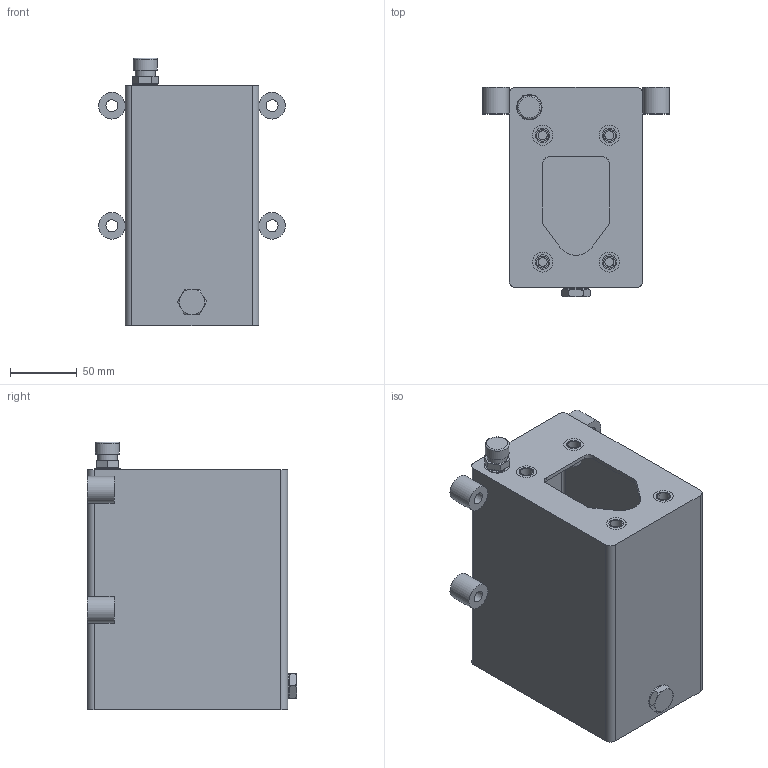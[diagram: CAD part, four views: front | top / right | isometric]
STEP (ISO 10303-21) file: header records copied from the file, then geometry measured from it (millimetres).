
FILE_DESCRIPTION(/* description */ ('Unknown'),/* implementation_level */ '2;1');
FILE_NAME(/* name */ 'PM00220002',/* time_stamp */ '2019-01-07T15:45:11+01:00',/* author */ ('Unknown'),/* organization */ ('Unknown'),/* preprocessor_version */ 'ST-DEVELOPER v16.7',/* originating_system */ 'DEX',/* authorisation */ $);
FILE_SCHEMA (('AUTOMOTIVE_DESIGN {1 0 10303 214 3 1 1}'));
Length unit declared in the file: millimetre
Products named in the file (7): PM00220002; PM00220001_01; GAR1300000; RV401.0400; ATS31A0040; PM00220007_02
Assembly tree (13 placements, depth 2):
  PM00220002
    PM00220002
    PM00220001_01  x4
    GAR1300000  x2
    RV401.0400
    ATS31A0040
    PM00220007_02  x4
Bounding box: 140 x 156.7 x 200.7 mm (x, y, z)
Volume: 365246.8 mm3; surface area: 242776.1 mm2
Topology: 14 solids, 14 shells, 151 faces, 320 edges, 211 vertices
Faces by surface type: plane 71, cylinder 55, cone 23, torus 2
Full cylindrical faces by diameter (mm): 6 x2, 6.647 x4, 9 x9, 10.9 x8, 11.1 x1, 11.445 x2, 12 x1, 13 x2, 13.157 x2, 15 x1, 16 x2, 18 x1, 19 x3, 20 x4
Entity records: 3933 total; most frequent: CARTESIAN_POINT 563, DIRECTION 532, ORIENTED_EDGE 412, AXIS2_PLACEMENT_3D 222, EDGE_CURVE 206, FACE_BOUND 179, EDGE_LOOP 178, VERTEX_POINT 153
